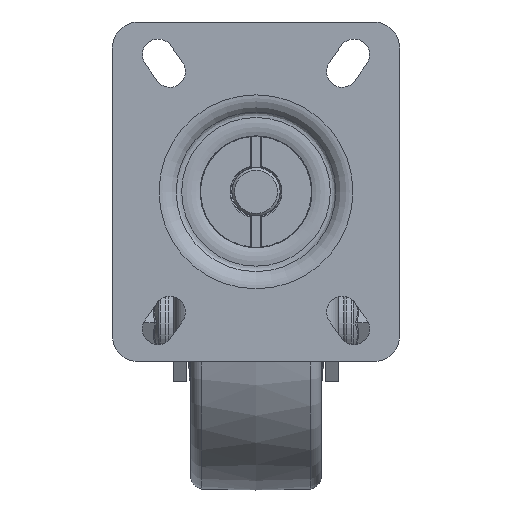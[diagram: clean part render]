
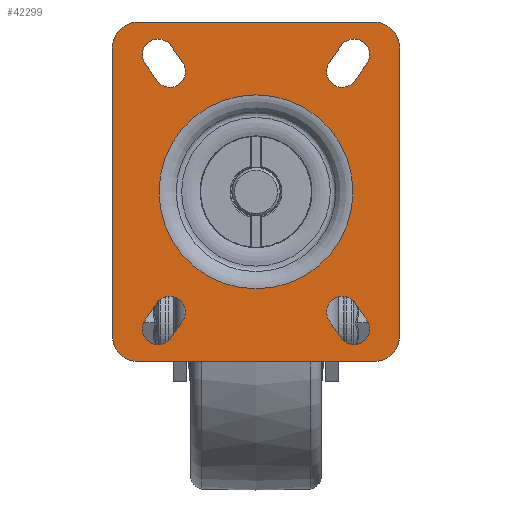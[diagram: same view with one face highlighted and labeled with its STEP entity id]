
A CAD part, top view. The second image highlights one B-rep face of the part: STEP entity #42299.
In plain terms, the highlighted planar face has unit normal (0, 0, 1).
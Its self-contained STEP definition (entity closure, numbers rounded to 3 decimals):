
#41909=CARTESIAN_POINT('',(0.0,-37.123,0.0));
#41910=VERTEX_POINT('',#41909);
#41911=CARTESIAN_POINT('',(0.0,0.0,0.0));
#41912=DIRECTION('',(0.0,0.0,-1.0));
#41913=DIRECTION('',(0.0,-1.0,0.0));
#41914=AXIS2_PLACEMENT_3D('',#41911,#41912,#41913);
#41915=CIRCLE('',#41914,37.123);
#41916=EDGE_CURVE('',#41910,#41910,#41915,.T.);
#42037=CARTESIAN_POINT('',(55.0,-55.,0.0));
#42038=VERTEX_POINT('',#42037);
#42045=CARTESIAN_POINT('',(45.0,-65.,0.0));
#42046=VERTEX_POINT('',#42045);
#42047=CARTESIAN_POINT('',(45.0,-55.,0.0));
#42048=DIRECTION('',(0.0,0.0,-1.));
#42049=DIRECTION('',(0.707,-0.707,0.0));
#42050=AXIS2_PLACEMENT_3D('',#42047,#42048,#42049);
#42051=CIRCLE('',#42050,10.);
#42052=EDGE_CURVE('',#42038,#42046,#42051,.T.);
#42069=CARTESIAN_POINT('',(-45.,-65.,0.0));
#42070=VERTEX_POINT('',#42069);
#42071=CARTESIAN_POINT('',(-45.,-65.,0.0));
#42072=DIRECTION('',(1.0,0.0,0.0));
#42073=VECTOR('',#42072,90.);
#42074=LINE('',#42071,#42073);
#42075=EDGE_CURVE('',#42070,#42046,#42074,.T.);
#42094=CARTESIAN_POINT('',(0.0,-38.562,0.0));
#42095=DIRECTION('',(0.0,0.0,1.0));
#42096=DIRECTION('',(-1.0,0.0,0.0));
#42097=AXIS2_PLACEMENT_3D('',#42094,#42095,#42096);
#42098=PLANE('',#42097);
#42099=ORIENTED_EDGE('',*,*,#42052,.F.);
#42100=CARTESIAN_POINT('',(55.0,55.,0.0));
#42101=VERTEX_POINT('',#42100);
#42102=CARTESIAN_POINT('',(55.0,-55.,0.0));
#42103=DIRECTION('',(0.0,1.0,0.0));
#42104=VECTOR('',#42103,110.);
#42105=LINE('',#42102,#42104);
#42106=EDGE_CURVE('',#42038,#42101,#42105,.T.);
#42107=ORIENTED_EDGE('',*,*,#42106,.T.);
#42108=CARTESIAN_POINT('',(45.0,65.,0.0));
#42109=VERTEX_POINT('',#42108);
#42110=CARTESIAN_POINT('',(45.0,55.,0.0));
#42111=DIRECTION('',(0.0,0.0,-1.));
#42112=DIRECTION('',(0.707,0.707,0.0));
#42113=AXIS2_PLACEMENT_3D('',#42110,#42111,#42112);
#42114=CIRCLE('',#42113,10.);
#42115=EDGE_CURVE('',#42109,#42101,#42114,.T.);
#42116=ORIENTED_EDGE('',*,*,#42115,.F.);
#42117=CARTESIAN_POINT('',(-45.,65.,0.0));
#42118=VERTEX_POINT('',#42117);
#42119=CARTESIAN_POINT('',(45.0,65.,0.0));
#42120=DIRECTION('',(-1.0,0.0,0.0));
#42121=VECTOR('',#42120,90.);
#42122=LINE('',#42119,#42121);
#42123=EDGE_CURVE('',#42109,#42118,#42122,.T.);
#42124=ORIENTED_EDGE('',*,*,#42123,.T.);
#42125=CARTESIAN_POINT('',(-55.,55.,0.0));
#42126=VERTEX_POINT('',#42125);
#42127=CARTESIAN_POINT('',(-45.,55.,0.0));
#42128=DIRECTION('',(0.0,0.0,-1.));
#42129=DIRECTION('',(-0.707,0.707,0.0));
#42130=AXIS2_PLACEMENT_3D('',#42127,#42128,#42129);
#42131=CIRCLE('',#42130,10.);
#42132=EDGE_CURVE('',#42126,#42118,#42131,.T.);
#42133=ORIENTED_EDGE('',*,*,#42132,.F.);
#42134=CARTESIAN_POINT('',(-55.,-55.,0.0));
#42135=VERTEX_POINT('',#42134);
#42136=CARTESIAN_POINT('',(-55.,55.,0.0));
#42137=DIRECTION('',(0.0,-1.0,0.0));
#42138=VECTOR('',#42137,110.0);
#42139=LINE('',#42136,#42138);
#42140=EDGE_CURVE('',#42126,#42135,#42139,.T.);
#42141=ORIENTED_EDGE('',*,*,#42140,.T.);
#42142=CARTESIAN_POINT('',(-45.,-55.,0.0));
#42143=DIRECTION('',(0.0,0.0,-1.));
#42144=DIRECTION('',(-0.707,-0.707,0.0));
#42145=AXIS2_PLACEMENT_3D('',#42142,#42143,#42144);
#42146=CIRCLE('',#42145,10.);
#42147=EDGE_CURVE('',#42070,#42135,#42146,.T.);
#42148=ORIENTED_EDGE('',*,*,#42147,.F.);
#42149=ORIENTED_EDGE('',*,*,#42075,.T.);
#42150=EDGE_LOOP('',(#42099,#42107,#42116,#42124,#42133,#42141,#42148,#42149));
#42151=FACE_OUTER_BOUND('',#42150,.T.);
#42152=CARTESIAN_POINT('',(32.567,55.915,0.0));
#42153=VERTEX_POINT('',#42152);
#42154=CARTESIAN_POINT('',(42.433,49.085,0.0));
#42155=VERTEX_POINT('',#42154);
#42156=CARTESIAN_POINT('',(37.5,52.5,0.0));
#42157=DIRECTION('',(0.0,0.0,-1.0));
#42158=DIRECTION('',(0.0,-1.0,0.0));
#42159=AXIS2_PLACEMENT_3D('',#42156,#42157,#42158);
#42160=CIRCLE('',#42159,6.);
#42161=EDGE_CURVE('',#42153,#42155,#42160,.T.);
#42162=ORIENTED_EDGE('',*,*,#42161,.T.);
#42163=CARTESIAN_POINT('',(37.933,42.585,0.0));
#42164=VERTEX_POINT('',#42163);
#42165=CARTESIAN_POINT('',(42.433,49.085,0.0));
#42166=DIRECTION('',(-0.569,-0.822,0.0));
#42167=VECTOR('',#42166,7.906);
#42168=LINE('',#42165,#42167);
#42169=EDGE_CURVE('',#42155,#42164,#42168,.T.);
#42170=ORIENTED_EDGE('',*,*,#42169,.T.);
#42171=CARTESIAN_POINT('',(28.067,49.415,0.0));
#42172=VERTEX_POINT('',#42171);
#42173=CARTESIAN_POINT('',(33.,46.,0.0));
#42174=DIRECTION('',(0.0,0.0,-1.0));
#42175=DIRECTION('',(0.0,-1.0,0.0));
#42176=AXIS2_PLACEMENT_3D('',#42173,#42174,#42175);
#42177=CIRCLE('',#42176,6.);
#42178=EDGE_CURVE('',#42164,#42172,#42177,.T.);
#42179=ORIENTED_EDGE('',*,*,#42178,.T.);
#42180=CARTESIAN_POINT('',(28.067,49.415,0.0));
#42181=DIRECTION('',(0.569,0.822,0.0));
#42182=VECTOR('',#42181,7.906);
#42183=LINE('',#42180,#42182);
#42184=EDGE_CURVE('',#42172,#42153,#42183,.T.);
#42185=ORIENTED_EDGE('',*,*,#42184,.T.);
#42186=EDGE_LOOP('',(#42162,#42170,#42179,#42185));
#42187=FACE_BOUND('',#42186,.T.);
#42188=CARTESIAN_POINT('',(-42.433,49.085,0.0));
#42189=VERTEX_POINT('',#42188);
#42190=CARTESIAN_POINT('',(-32.567,55.915,0.0));
#42191=VERTEX_POINT('',#42190);
#42192=CARTESIAN_POINT('',(-37.5,52.5,0.0));
#42193=DIRECTION('',(0.0,0.0,-1.0));
#42194=DIRECTION('',(0.0,-1.0,0.0));
#42195=AXIS2_PLACEMENT_3D('',#42192,#42193,#42194);
#42196=CIRCLE('',#42195,6.);
#42197=EDGE_CURVE('',#42189,#42191,#42196,.T.);
#42198=ORIENTED_EDGE('',*,*,#42197,.T.);
#42199=CARTESIAN_POINT('',(-28.067,49.415,0.0));
#42200=VERTEX_POINT('',#42199);
#42201=CARTESIAN_POINT('',(-32.567,55.915,0.0));
#42202=DIRECTION('',(0.569,-0.822,0.0));
#42203=VECTOR('',#42202,7.906);
#42204=LINE('',#42201,#42203);
#42205=EDGE_CURVE('',#42191,#42200,#42204,.T.);
#42206=ORIENTED_EDGE('',*,*,#42205,.T.);
#42207=CARTESIAN_POINT('',(-37.933,42.585,0.0));
#42208=VERTEX_POINT('',#42207);
#42209=CARTESIAN_POINT('',(-33.,46.,0.0));
#42210=DIRECTION('',(0.0,0.0,-1.0));
#42211=DIRECTION('',(0.0,-1.0,0.0));
#42212=AXIS2_PLACEMENT_3D('',#42209,#42210,#42211);
#42213=CIRCLE('',#42212,6.);
#42214=EDGE_CURVE('',#42200,#42208,#42213,.T.);
#42215=ORIENTED_EDGE('',*,*,#42214,.T.);
#42216=CARTESIAN_POINT('',(-37.933,42.585,0.0));
#42217=DIRECTION('',(-0.569,0.822,0.0));
#42218=VECTOR('',#42217,7.906);
#42219=LINE('',#42216,#42218);
#42220=EDGE_CURVE('',#42208,#42189,#42219,.T.);
#42221=ORIENTED_EDGE('',*,*,#42220,.T.);
#42222=EDGE_LOOP('',(#42198,#42206,#42215,#42221));
#42223=FACE_BOUND('',#42222,.T.);
#42224=CARTESIAN_POINT('',(-32.567,-55.915,0.0));
#42225=VERTEX_POINT('',#42224);
#42226=CARTESIAN_POINT('',(-42.433,-49.085,0.0));
#42227=VERTEX_POINT('',#42226);
#42228=CARTESIAN_POINT('',(-37.5,-52.5,0.0));
#42229=DIRECTION('',(0.0,0.0,-1.0));
#42230=DIRECTION('',(0.0,-1.0,0.0));
#42231=AXIS2_PLACEMENT_3D('',#42228,#42229,#42230);
#42232=CIRCLE('',#42231,6.);
#42233=EDGE_CURVE('',#42225,#42227,#42232,.T.);
#42234=ORIENTED_EDGE('',*,*,#42233,.T.);
#42235=CARTESIAN_POINT('',(-37.933,-42.585,0.0));
#42236=VERTEX_POINT('',#42235);
#42237=CARTESIAN_POINT('',(-42.433,-49.085,0.0));
#42238=DIRECTION('',(0.569,0.822,0.0));
#42239=VECTOR('',#42238,7.906);
#42240=LINE('',#42237,#42239);
#42241=EDGE_CURVE('',#42227,#42236,#42240,.T.);
#42242=ORIENTED_EDGE('',*,*,#42241,.T.);
#42243=CARTESIAN_POINT('',(-28.067,-49.415,0.0));
#42244=VERTEX_POINT('',#42243);
#42245=CARTESIAN_POINT('',(-33.0,-46.,0.0));
#42246=DIRECTION('',(0.0,0.0,-1.0));
#42247=DIRECTION('',(0.0,-1.0,0.0));
#42248=AXIS2_PLACEMENT_3D('',#42245,#42246,#42247);
#42249=CIRCLE('',#42248,6.);
#42250=EDGE_CURVE('',#42236,#42244,#42249,.T.);
#42251=ORIENTED_EDGE('',*,*,#42250,.T.);
#42252=CARTESIAN_POINT('',(-28.067,-49.415,0.0));
#42253=DIRECTION('',(-0.569,-0.822,0.0));
#42254=VECTOR('',#42253,7.906);
#42255=LINE('',#42252,#42254);
#42256=EDGE_CURVE('',#42244,#42225,#42255,.T.);
#42257=ORIENTED_EDGE('',*,*,#42256,.T.);
#42258=EDGE_LOOP('',(#42234,#42242,#42251,#42257));
#42259=FACE_BOUND('',#42258,.T.);
#42260=CARTESIAN_POINT('',(37.933,-42.585,0.0));
#42261=VERTEX_POINT('',#42260);
#42262=CARTESIAN_POINT('',(42.433,-49.085,0.0));
#42263=VERTEX_POINT('',#42262);
#42264=CARTESIAN_POINT('',(37.933,-42.585,0.0));
#42265=DIRECTION('',(0.569,-0.822,0.0));
#42266=VECTOR('',#42265,7.906);
#42267=LINE('',#42264,#42266);
#42268=EDGE_CURVE('',#42261,#42263,#42267,.T.);
#42269=ORIENTED_EDGE('',*,*,#42268,.T.);
#42270=CARTESIAN_POINT('',(32.567,-55.915,0.0));
#42271=VERTEX_POINT('',#42270);
#42272=CARTESIAN_POINT('',(37.5,-52.5,0.0));
#42273=DIRECTION('',(0.0,0.0,-1.0));
#42274=DIRECTION('',(0.0,-1.0,0.0));
#42275=AXIS2_PLACEMENT_3D('',#42272,#42273,#42274);
#42276=CIRCLE('',#42275,6.);
#42277=EDGE_CURVE('',#42263,#42271,#42276,.T.);
#42278=ORIENTED_EDGE('',*,*,#42277,.T.);
#42279=CARTESIAN_POINT('',(28.067,-49.415,0.0));
#42280=VERTEX_POINT('',#42279);
#42281=CARTESIAN_POINT('',(32.567,-55.915,0.0));
#42282=DIRECTION('',(-0.569,0.822,0.0));
#42283=VECTOR('',#42282,7.906);
#42284=LINE('',#42281,#42283);
#42285=EDGE_CURVE('',#42271,#42280,#42284,.T.);
#42286=ORIENTED_EDGE('',*,*,#42285,.T.);
#42287=CARTESIAN_POINT('',(33.,-46.,0.0));
#42288=DIRECTION('',(0.0,0.0,-1.0));
#42289=DIRECTION('',(0.0,-1.0,0.0));
#42290=AXIS2_PLACEMENT_3D('',#42287,#42288,#42289);
#42291=CIRCLE('',#42290,6.);
#42292=EDGE_CURVE('',#42280,#42261,#42291,.T.);
#42293=ORIENTED_EDGE('',*,*,#42292,.T.);
#42294=EDGE_LOOP('',(#42269,#42278,#42286,#42293));
#42295=FACE_BOUND('',#42294,.T.);
#42296=ORIENTED_EDGE('',*,*,#41916,.T.);
#42297=EDGE_LOOP('',(#42296));
#42298=FACE_BOUND('',#42297,.T.);
#42299=ADVANCED_FACE('',(#42151,#42187,#42223,#42259,#42295,#42298),#42098,.T.);
